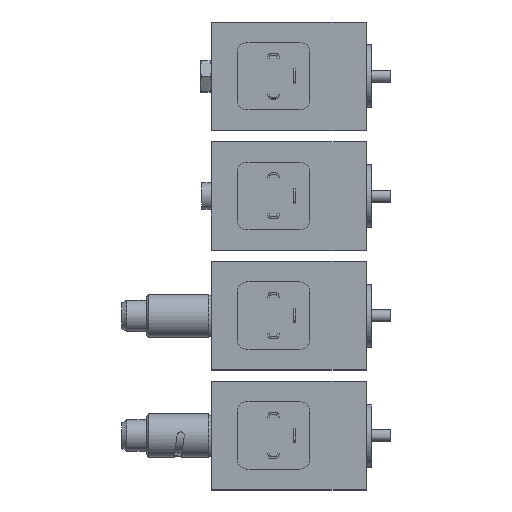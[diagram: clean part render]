
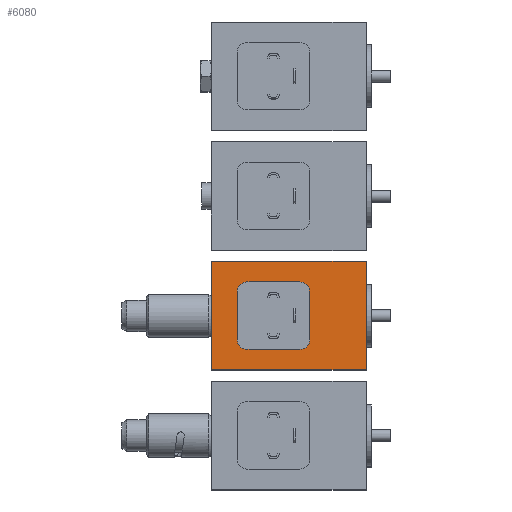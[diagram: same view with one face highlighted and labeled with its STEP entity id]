
A CAD part, top view. The second image highlights one B-rep face of the part: STEP entity #6080.
In plain terms, the highlighted planar face has unit normal (0, 0, 1).
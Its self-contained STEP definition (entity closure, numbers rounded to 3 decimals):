
#6080=ADVANCED_FACE('', (#6090,#6100,#6110,#6120,#6130), #6140, .T.);
#33450=AXIS2_PLACEMENT_3D('Ax2Pl3d', #33460, #33470, #33480);
#33490=AXIS2_PLACEMENT_3D('Ax2Pl3d', #33500, #33510, #33520);
#33530=AXIS2_PLACEMENT_3D('Ax2Pl3d', #33540, #33550, #33560);
#33570=AXIS2_PLACEMENT_3D('Ax2Pl3d', #33580, #33590, #33600);
#33610=AXIS2_PLACEMENT_3D('Ax2Pl3d', #33620, #33630, #33640);
#33460=CARTESIAN_POINT('HicPkt', (0.,95.,413.));
#85060=CARTESIAN_POINT('', (0.,50.,413.));
#85070=CARTESIAN_POINT('', (0.,95.,413.));
#85080=CARTESIAN_POINT('', (0.,50.,413.));
#85090=CARTESIAN_POINT('', (64.3,50.,413.));
#85100=CARTESIAN_POINT('', (64.3,50.,413.));
#85110=CARTESIAN_POINT('', (64.3,95.,413.));
#85120=CARTESIAN_POINT('', (64.3,95.,413.));
#85130=CARTESIAN_POINT('', (0.,95.,413.));
#33500=CARTESIAN_POINT('HicPkt', (21.8,72.5,413.));
#85140=CARTESIAN_POINT('', (21.8,80.,413.));
#33540=CARTESIAN_POINT('HicPkt', (16.55,81.75,413.));
#85150=CARTESIAN_POINT('', (16.55,83.25,413.));
#33580=CARTESIAN_POINT('HicPkt', (32.3,72.5,413.));
#85160=CARTESIAN_POINT('', (32.3,74.,413.));
#33620=CARTESIAN_POINT('HicPkt', (35.05,63.25,413.));
#85170=CARTESIAN_POINT('', (35.05,64.75,413.));
#96560=CIRCLE('Circle', #33490, 7.5);
#96570=CIRCLE('Circle', #33530, 1.5);
#96580=CIRCLE('Circle', #33570, 1.5);
#96590=CIRCLE('Circle', #33610, 1.5);
#33470=DIRECTION('Axis', (0.,0.,1.));
#33480=DIRECTION('RefDirection', (1.,0.,0.));
#141160=DIRECTION('', (0.,-1.,0.));
#141170=DIRECTION('', (1.,0.,0.));
#141180=DIRECTION('', (0.,1.,0.));
#141190=DIRECTION('', (-1.,0.,0.));
#33510=DIRECTION('Axis', (0.,0.,1.));
#33520=DIRECTION('RefDirection', (1.,0.,0.));
#33550=DIRECTION('Axis', (0.,0.,1.));
#33560=DIRECTION('RefDirection', (1.,0.,0.));
#33590=DIRECTION('Axis', (0.,0.,1.));
#33600=DIRECTION('RefDirection', (1.,0.,0.));
#33630=DIRECTION('Axis', (0.,0.,1.));
#33640=DIRECTION('RefDirection', (1.,0.,0.));
#151860=EDGE_CURVE('', #151870, #151880, #151890, .T.);
#151900=EDGE_CURVE('', #151880, #151910, #151920, .T.);
#151930=EDGE_CURVE('', #151910, #151940, #151950, .T.);
#151960=EDGE_CURVE('', #151940, #151870, #151970, .T.);
#151980=EDGE_CURVE('', #151990, #151990, #96560, .T.);
#152000=EDGE_CURVE('', #152010, #152010, #96570, .T.);
#152020=EDGE_CURVE('', #152030, #152030, #96580, .T.);
#152040=EDGE_CURVE('', #152050, #152050, #96590, .T.);
#178260=EDGE_LOOP('Edge_loop', (#178270,#178280,#178290,#178300));
#178310=EDGE_LOOP('Edge_loop', (#178320));
#178330=EDGE_LOOP('Edge_loop', (#178340));
#178350=EDGE_LOOP('Edge_loop', (#178360));
#178370=EDGE_LOOP('Edge_loop', (#178380));
#6100=FACE_BOUND('', #178310, .T.);
#6110=FACE_BOUND('', #178330, .T.);
#6120=FACE_BOUND('', #178350, .T.);
#6130=FACE_BOUND('', #178370, .T.);
#6090=FACE_OUTER_BOUND('Face_outer_bound', #178260, .T.);
#151890=LINE('Line', #85060, #216390);
#151920=LINE('Line', #85090, #216400);
#151950=LINE('Line', #85110, #216410);
#151970=LINE('Line', #85130, #216420);
#178270=ORIENTED_EDGE('', *, *, #151860, .T.);
#178280=ORIENTED_EDGE('', *, *, #151900, .T.);
#178290=ORIENTED_EDGE('', *, *, #151930, .T.);
#178300=ORIENTED_EDGE('', *, *, #151960, .T.);
#178320=ORIENTED_EDGE('', *, *, #151980, .F.);
#178340=ORIENTED_EDGE('', *, *, #152000, .F.);
#178360=ORIENTED_EDGE('', *, *, #152020, .F.);
#178380=ORIENTED_EDGE('', *, *, #152040, .F.);
#6140=PLANE('Plane', #33450);
#216390=VECTOR('', #141160, 45.);
#216400=VECTOR('', #141170, 64.3);
#216410=VECTOR('', #141180, 45.);
#216420=VECTOR('', #141190, 64.3);
#151870=VERTEX_POINT('', #85070);
#151880=VERTEX_POINT('', #85080);
#151910=VERTEX_POINT('', #85100);
#151940=VERTEX_POINT('', #85120);
#151990=VERTEX_POINT('', #85140);
#152010=VERTEX_POINT('', #85150);
#152030=VERTEX_POINT('', #85160);
#152050=VERTEX_POINT('', #85170);
